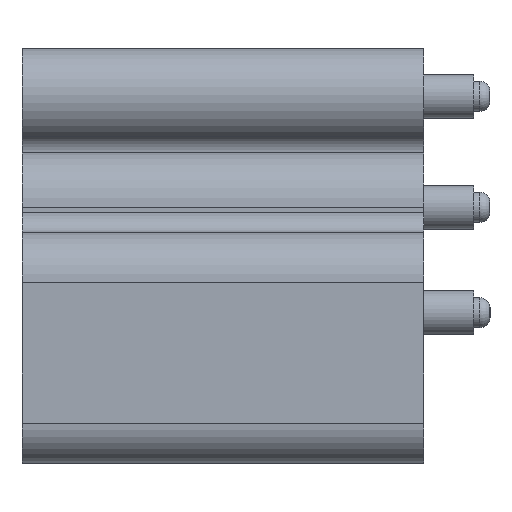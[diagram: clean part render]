
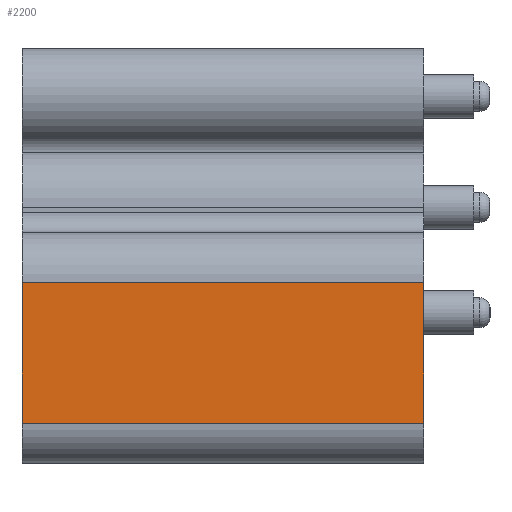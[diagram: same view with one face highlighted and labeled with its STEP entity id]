
A CAD part, left-side view. The second image highlights one B-rep face of the part: STEP entity #2200.
In plain terms, the highlighted planar face has unit normal (-1, 0, 0).
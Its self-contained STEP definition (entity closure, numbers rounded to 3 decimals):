
#159 = EDGE_LOOP ( 'NONE', ( #737, #736, #739, #735 ) ) ;
#300 = VERTEX_POINT ( 'NONE', #2423 ) ;
#332 = VERTEX_POINT ( 'NONE', #2455 ) ;
#333 = VERTEX_POINT ( 'NONE', #2456 ) ;
#397 = VERTEX_POINT ( 'NONE', #2520 ) ;
#735 = ORIENTED_EDGE ( 'NONE', *, *, #1841, .T. ) ;
#736 = ORIENTED_EDGE ( 'NONE', *, *, #1840, .T. ) ;
#737 = ORIENTED_EDGE ( 'NONE', *, *, #1753, .T. ) ;
#739 = ORIENTED_EDGE ( 'NONE', *, *, #1831, .F. ) ;
#993 = VECTOR ( 'NONE', #2929, 1000. ) ;
#1002 = VECTOR ( 'NONE', #2956, 1000. ) ;
#1003 = VECTOR ( 'NONE', #2959, 1000. ) ;
#1163 = PLANE ( 'NONE',  #1659 ) ;
#1164 = CARTESIAN_POINT ( 'NONE',  ( -35.5, -20., 7.75 ) ) ;
#1165 = DIRECTION ( 'NONE',  ( -1., 0., 0. ) ) ;
#1166 = DIRECTION ( 'NONE',  ( 0., 0., 1. ) ) ;
#1528 = VECTOR ( 'NONE', #2707, 1000. ) ;
#1654 = FACE_OUTER_BOUND ( 'NONE', #159, .T. ) ;
#1659 = AXIS2_PLACEMENT_3D ( 'NONE', #1164, #1165, #1166 ) ;
#1753 = EDGE_CURVE ( 'NONE', #397, #300, #2705, .T. ) ;
#1831 = EDGE_CURVE ( 'NONE', #333, #332, #2927, .T. ) ;
#1840 = EDGE_CURVE ( 'NONE', #300, #332, #2954, .T. ) ;
#1841 = EDGE_CURVE ( 'NONE', #333, #397, #2957, .T. ) ;
#2200 = ADVANCED_FACE ( 'NONE', ( #1654 ), #1163, .T. ) ;
#2423 = CARTESIAN_POINT ( 'NONE',  ( -35.5, -20., 1.25 ) ) ;
#2455 = CARTESIAN_POINT ( 'NONE',  ( -35.5, 0., 1.25 ) ) ;
#2456 = CARTESIAN_POINT ( 'NONE',  ( -35.5, 0., -5.75 ) ) ;
#2520 = CARTESIAN_POINT ( 'NONE',  ( -35.5, -20., -5.75 ) ) ;
#2705 = LINE ( 'NONE', #2706, #1528 ) ;
#2706 = CARTESIAN_POINT ( 'NONE',  ( -35.5, -20., 7.75 ) ) ;
#2707 = DIRECTION ( 'NONE',  ( 0., 0., 1. ) ) ;
#2927 = LINE ( 'NONE', #2928, #993 ) ;
#2928 = CARTESIAN_POINT ( 'NONE',  ( -35.5, 0., 7.75 ) ) ;
#2929 = DIRECTION ( 'NONE',  ( 0., 0., 1. ) ) ;
#2954 = LINE ( 'NONE', #2955, #1002 ) ;
#2955 = CARTESIAN_POINT ( 'NONE',  ( -35.5, -20., 1.25 ) ) ;
#2956 = DIRECTION ( 'NONE',  ( 0., 1., 0. ) ) ;
#2957 = LINE ( 'NONE', #2958, #1003 ) ;
#2958 = CARTESIAN_POINT ( 'NONE',  ( -35.5, -20., -5.75 ) ) ;
#2959 = DIRECTION ( 'NONE',  ( 0., -1., 0. ) ) ;
